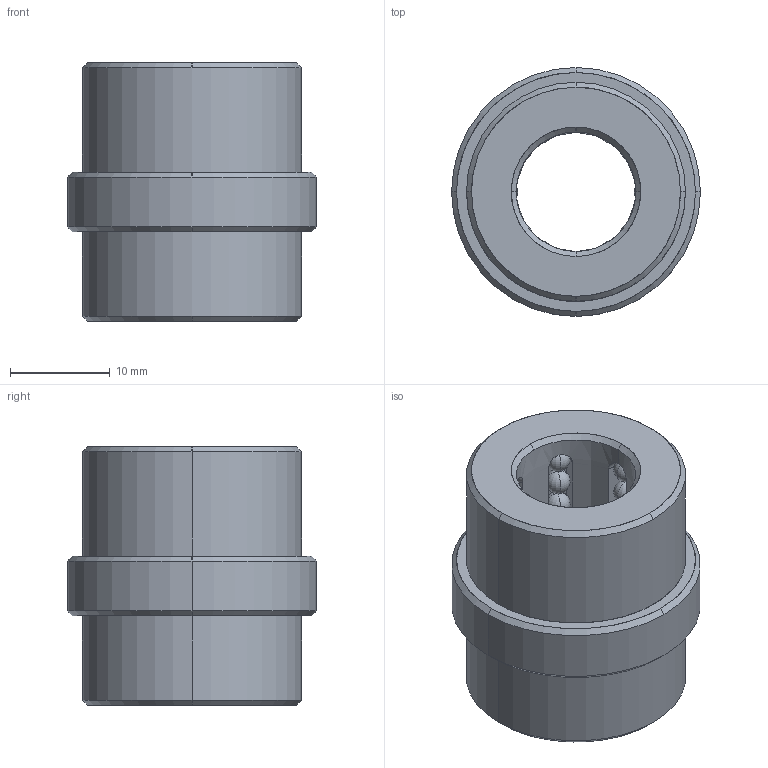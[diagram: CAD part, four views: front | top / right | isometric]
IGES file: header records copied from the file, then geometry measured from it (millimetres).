
Start section: START RECORD GO HERE.
Global section: file name: B844120917.igs; native system: DASSAULT SYSTEMES CATIA V5 R20 - www.3ds.com; preprocessor: CATIA Version 5 Release 20 ; author: Utente; organization: NB04-ASUS; date: 20200419.200914; units: millimetre
Bounding box: 25 x 25 x 26 mm (x, y, z)
Surface area: 5107.3 mm2 (no closed solid volume)
Topology: 0 solids, 0 shells, 258 faces, 1092 edges, 708 vertices
Faces by surface type: revolution 236, plane 22
